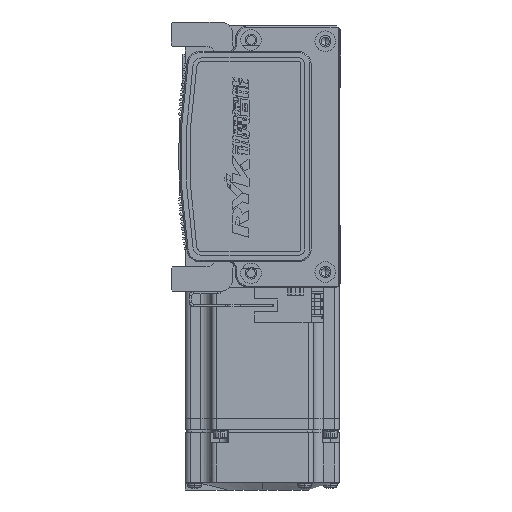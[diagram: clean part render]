
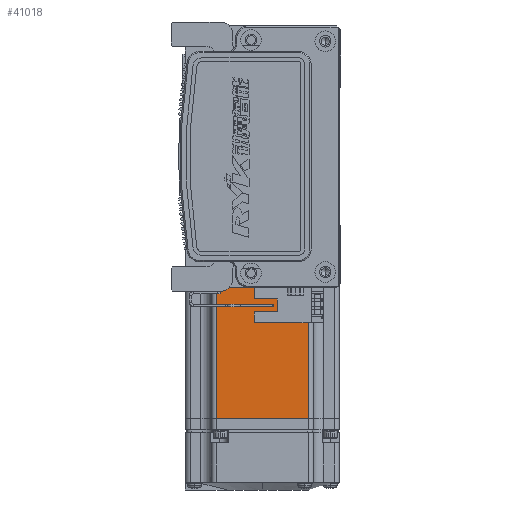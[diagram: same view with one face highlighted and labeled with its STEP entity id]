
A CAD part, left-side view. The second image highlights one B-rep face of the part: STEP entity #41018.
In plain terms, the highlighted planar face has unit normal (-1, 0, 0) as drawn and (0, 0, 1) by its records, which use the part's own axes.
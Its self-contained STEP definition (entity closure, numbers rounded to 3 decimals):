
#7047 = PLANE ( 'NONE',  #21484 ) ;
#10065 = LINE ( 'NONE', #52903, #65908 ) ;
#11331 = DIRECTION ( 'NONE',  ( 1., 0., 0. ) ) ;
#13680 = VERTEX_POINT ( 'NONE', #46884 ) ;
#14214 = ORIENTED_EDGE ( 'NONE', *, *, #27639, .F. ) ;
#20003 = EDGE_CURVE ( 'NONE', #39463, #13680, #10065, .T. ) ;
#20518 = ORIENTED_EDGE ( 'NONE', *, *, #47140, .T. ) ;
#21484 = AXIS2_PLACEMENT_3D ( 'NONE', #60492, #55113, #11331 ) ;
#24325 = ORIENTED_EDGE ( 'NONE', *, *, #20003, .T. ) ;
#25721 = DIRECTION ( 'NONE',  ( 0., -1., 0. ) ) ;
#27639 = EDGE_CURVE ( 'NONE', #57824, #56663, #36567, .T. ) ;
#29278 = DIRECTION ( 'NONE',  ( -1., 0., 0. ) ) ;
#29424 = LINE ( 'NONE', #54510, #47199 ) ;
#30961 = CARTESIAN_POINT ( 'NONE',  ( -7.75, 0., 30. ) ) ;
#36567 = LINE ( 'NONE', #30961, #47588 ) ;
#39463 = VERTEX_POINT ( 'NONE', #50049 ) ;
#40082 = FACE_OUTER_BOUND ( 'NONE', #46827, .T. ) ;
#41018 = ADVANCED_FACE ( 'NONE', ( #40082 ), #7047, .T. ) ;
#41354 = CARTESIAN_POINT ( 'NONE',  ( -7.75, 18., 30. ) ) ;
#46827 = EDGE_LOOP ( 'NONE', ( #14214, #20518, #24325, #54108 ) ) ;
#46884 = CARTESIAN_POINT ( 'NONE',  ( -70.95, -18., 30. ) ) ;
#47140 = EDGE_CURVE ( 'NONE', #57824, #39463, #29424, .T. ) ;
#47199 = VECTOR ( 'NONE', #60104, 1000. ) ;
#47588 = VECTOR ( 'NONE', #25721, 1000. ) ;
#47701 = DIRECTION ( 'NONE',  ( 0., -1., 0. ) ) ;
#47878 = VECTOR ( 'NONE', #29278, 1000. ) ;
#48268 = EDGE_CURVE ( 'NONE', #56663, #13680, #61376, .T. ) ;
#50049 = CARTESIAN_POINT ( 'NONE',  ( -70.95, 18., 30. ) ) ;
#50572 = CARTESIAN_POINT ( 'NONE',  ( -6.5, -18., 30. ) ) ;
#52903 = CARTESIAN_POINT ( 'NONE',  ( -70.95, 0., 30. ) ) ;
#54108 = ORIENTED_EDGE ( 'NONE', *, *, #48268, .F. ) ;
#54510 = CARTESIAN_POINT ( 'NONE',  ( -6.5, 18., 30. ) ) ;
#55113 = DIRECTION ( 'NONE',  ( 0., 0., 1. ) ) ;
#56663 = VERTEX_POINT ( 'NONE', #67278 ) ;
#57824 = VERTEX_POINT ( 'NONE', #41354 ) ;
#60104 = DIRECTION ( 'NONE',  ( -1., 0., 0. ) ) ;
#60492 = CARTESIAN_POINT ( 'NONE',  ( -6.5, -25., 30. ) ) ;
#61376 = LINE ( 'NONE', #50572, #47878 ) ;
#65908 = VECTOR ( 'NONE', #47701, 1000. ) ;
#67278 = CARTESIAN_POINT ( 'NONE',  ( -7.75, -18., 30. ) ) ;
